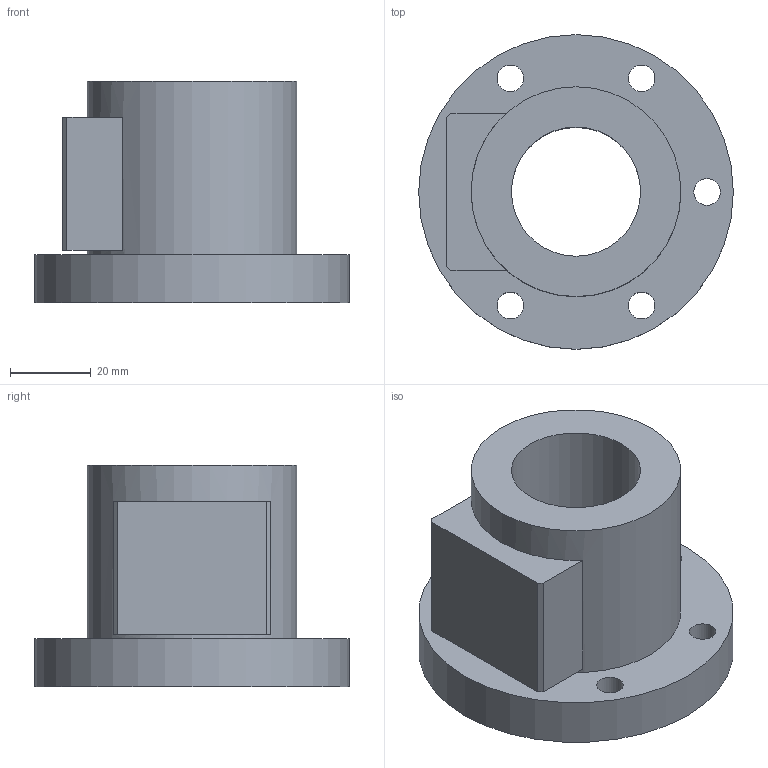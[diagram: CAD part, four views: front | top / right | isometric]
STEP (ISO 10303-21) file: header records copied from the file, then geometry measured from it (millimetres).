
FILE_DESCRIPTION(/* description */ (''),/* implementation_level */ '2;1');
FILE_NAME(/* name */ '32-6C1',/* time_stamp */ '2006-07-31T09:58:58+08:00',/* author */ (''),/* organization */ (''),/* preprocessor_version */ 'ST-DEVELOPER v9',/* originating_system */ 'UGS - NX 4.0',/* authorisation */ '');
FILE_SCHEMA (('CONFIG_CONTROL_DESIGN'));
Length unit declared in the file: millimetre
Products named in the file (1): 32-6C1
Bounding box: 78 x 78 x 55 mm (x, y, z)
Volume: 111563 mm3; surface area: 26240.5 mm2
Topology: 1 solids, 1 shells, 28 faces, 61 edges, 42 vertices
Faces by surface type: plane 15, cylinder 13
Full cylindrical faces by diameter (mm): 6.6 x5, 11 x5, 32 x1, 52 x1, 78 x1
Entity records: 794 total; most frequent: DIRECTION 130, CARTESIAN_POINT 111, ORIENTED_EDGE 88, EDGE_LOOP 60, AXIS2_PLACEMENT_3D 57, FACE_BOUND 45, EDGE_CURVE 44, VERTEX_POINT 38
